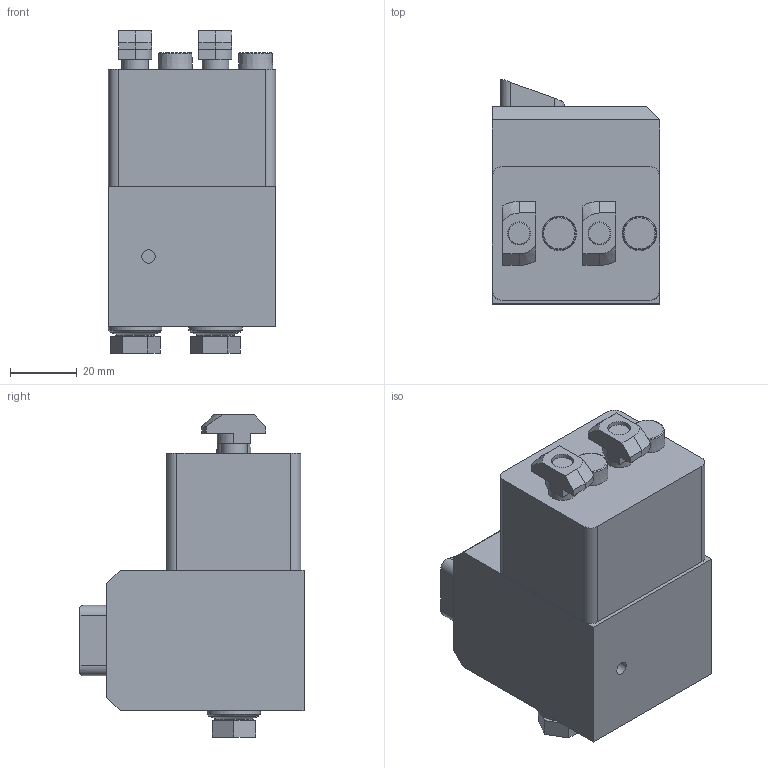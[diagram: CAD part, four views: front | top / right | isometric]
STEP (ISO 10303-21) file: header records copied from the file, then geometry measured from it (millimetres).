
FILE_DESCRIPTION (( 'STEP AP203' ), '1' );
FILE_NAME ('ASR-102.STEP', '2017-01-20T09:47:09', ( '' ), ( '' ), 'SwSTEP 2.0', 'SolidWorks 2015', '' );
FILE_SCHEMA (( 'CONFIG_CONTROL_DESIGN' ));
Length unit declared in the file: millimetre
Products named in the file (1): ASR-102
Bounding box: 50 x 67 x 96.4 mm (x, y, z)
Volume: 196728.4 mm3; surface area: 39127.1 mm2
Topology: 2 solids, 2 shells, 461 faces, 1217 edges, 807 vertices
Faces by surface type: plane 214, cylinder 180, bspline 35, cone 20, sphere 8, torus 4
Full cylindrical faces by diameter (mm): 4 x1, 4.5 x2, 4.8 x6, 6.8 x2, 8 x4, 8.2 x2, 8.4 x2, 8.5 x4, 10 x1, 11 x1, 11.6 x2, 14 x2, 16 x2
Entity records: 16128 total; most frequent: CARTESIAN_POINT 4860, DIRECTION 2293, ORIENTED_EDGE 2292, EDGE_CURVE 1146, AXIS2_PLACEMENT_3D 816, VERTEX_POINT 787, LINE 661, VECTOR 661
